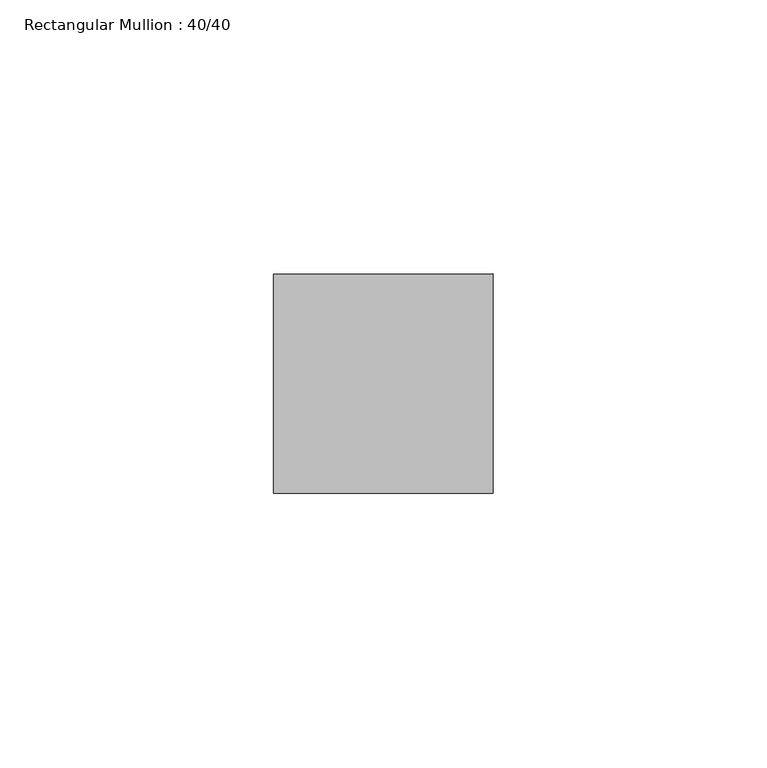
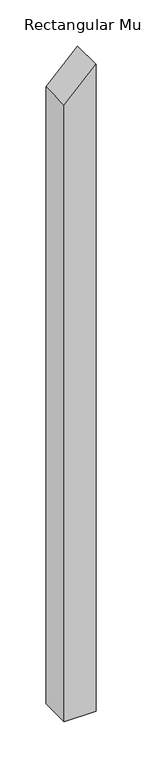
"""IFC4 building model written with IfcOpenShell, lengths in millimetres: member geometry, Rectangular Mullion : 40/40."""

from ifc_helpers import new_model, si_unit, frame, origin, place, context, project, spatial, polyline, outline, extrude, source, transform, mapped, element, save


def rectangular_mullion_40_40_fbd32b48(model_context):
    return source(origin(), model_context, "Body", "SweptSolid", [
        extrude(outline(polyline([(0.0, 0.0), (-39.9910636, -40.0), (-858.236703, -40.0), (-858.236703, 0.0), (0.0, 0.0)])), frame((0.0, -20.0, 0.0), z_axis=(0.0, 1.0, 0.0), x_axis=(0.0, 0.0, 1.0)), (0.0, 0.0, 1.0), 40.0),
    ])


if __name__ == "__main__":
    model = new_model("IFC4")
    model_context = context("Model", 3, world=origin())
    ifc_project = project(units=[si_unit("LENGTHUNIT", "METRE", prefix="MILLI")], contexts=[model_context])
    site = spatial("IfcSite", under=ifc_project)
    building = spatial("IfcBuilding", under=site)
    placement = place(None, origin())
    rectangular_mullion_40_40_shape = rectangular_mullion_40_40_fbd32b48(model_context)
    element("IfcMember", 1, ObjectType="Rectangular Mullion : 40/40", at=placement, inside=building, context=model_context, shape_type="MappedRepresentation", body=[
        mapped(rectangular_mullion_40_40_shape, transform((0.0, 0.0, 0.0), x_axis=(1.0, 0.0, 0.0), y_axis=(0.0, 1.0, 0.0), z_axis=(0.0, 0.0, 1.0))),
    ])
    save(model, "model.ifc")
